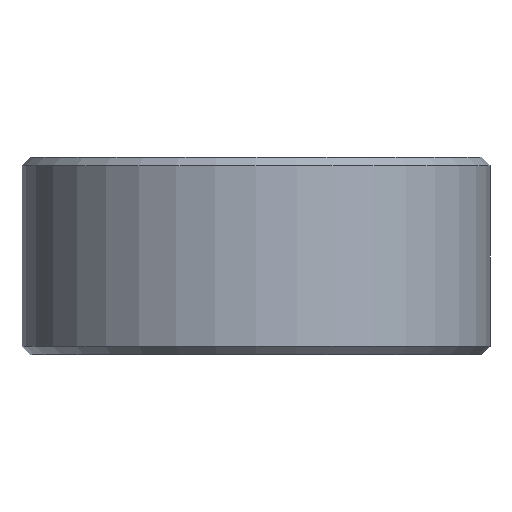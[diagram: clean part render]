
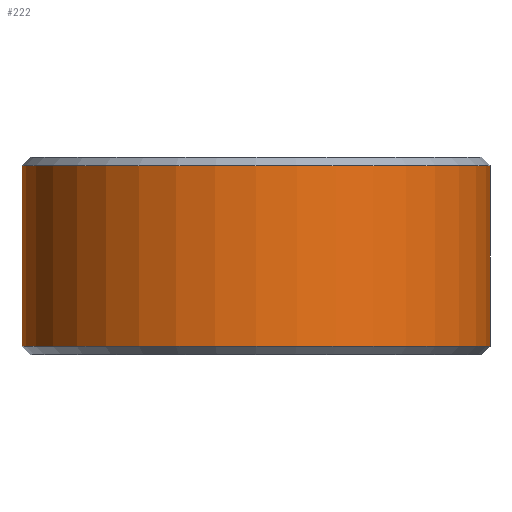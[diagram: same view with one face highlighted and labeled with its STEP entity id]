
A CAD part, front view. The second image highlights one B-rep face of the part: STEP entity #222.
In plain terms, the highlighted cylindrical face has radius 17.775 mm (diameter 35.55 mm), a partial arc.
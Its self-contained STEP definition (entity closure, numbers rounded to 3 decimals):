
#8 = FACE_OUTER_BOUND ( 'NONE', #53, .T. ) ;
#10 = CYLINDRICAL_SURFACE ( 'NONE', #121, 17.775 ) ;
#21 = VERTEX_POINT ( 'NONE', #126 ) ;
#49 = LINE ( 'NONE', #150, #337 ) ;
#53 = EDGE_LOOP ( 'NONE', ( #209, #162, #238, #85 ) ) ;
#68 = CARTESIAN_POINT ( 'NONE',  ( -17.775, 0., 15. ) ) ;
#70 = DIRECTION ( 'NONE',  ( 1., 0., 0. ) ) ;
#85 = ORIENTED_EDGE ( 'NONE', *, *, #304, .T. ) ;
#87 = VECTOR ( 'NONE', #374, 1000. ) ;
#88 = VERTEX_POINT ( 'NONE', #251 ) ;
#109 = EDGE_CURVE ( 'NONE', #184, #88, #395, .T. ) ;
#110 = CARTESIAN_POINT ( 'NONE',  ( 0., 0., 0.635 ) ) ;
#111 = VERTEX_POINT ( 'NONE', #372 ) ;
#121 = AXIS2_PLACEMENT_3D ( 'NONE', #136, #137, #202 ) ;
#126 = CARTESIAN_POINT ( 'NONE',  ( 17.775, 0., 0.635 ) ) ;
#132 = EDGE_CURVE ( 'NONE', #88, #111, #133, .T. ) ;
#133 = LINE ( 'NONE', #68, #87 ) ;
#136 = CARTESIAN_POINT ( 'NONE',  ( 0., 0., 15. ) ) ;
#137 = DIRECTION ( 'NONE',  ( 0., 0., -1. ) ) ;
#150 = CARTESIAN_POINT ( 'NONE',  ( 17.775, 0., 15. ) ) ;
#162 = ORIENTED_EDGE ( 'NONE', *, *, #109, .T. ) ;
#184 = VERTEX_POINT ( 'NONE', #223 ) ;
#202 = DIRECTION ( 'NONE',  ( -1., 0., 0. ) ) ;
#209 = ORIENTED_EDGE ( 'NONE', *, *, #294, .F. ) ;
#222 = ADVANCED_FACE ( 'NONE', ( #8 ), #10, .T. ) ;
#223 = CARTESIAN_POINT ( 'NONE',  ( 17.775, 0., 14.365 ) ) ;
#238 = ORIENTED_EDGE ( 'NONE', *, *, #132, .T. ) ;
#251 = CARTESIAN_POINT ( 'NONE',  ( -17.775, 0., 14.365 ) ) ;
#253 = AXIS2_PLACEMENT_3D ( 'NONE', #366, #318, #70 ) ;
#282 = CIRCLE ( 'NONE', #323, 17.775 ) ;
#294 = EDGE_CURVE ( 'NONE', #184, #21, #49, .T. ) ;
#295 = DIRECTION ( 'NONE',  ( 0., 0., 1. ) ) ;
#304 = EDGE_CURVE ( 'NONE', #111, #21, #282, .T. ) ;
#318 = DIRECTION ( 'NONE',  ( 0., 0., -1. ) ) ;
#323 = AXIS2_PLACEMENT_3D ( 'NONE', #110, #295, #324 ) ;
#324 = DIRECTION ( 'NONE',  ( 1., 0., 0. ) ) ;
#337 = VECTOR ( 'NONE', #389, 1000. ) ;
#366 = CARTESIAN_POINT ( 'NONE',  ( 0., 0., 14.365 ) ) ;
#372 = CARTESIAN_POINT ( 'NONE',  ( -17.775, 0., 0.635 ) ) ;
#374 = DIRECTION ( 'NONE',  ( 0., 0., -1. ) ) ;
#389 = DIRECTION ( 'NONE',  ( 0., 0., -1. ) ) ;
#395 = CIRCLE ( 'NONE', #253, 17.775 ) ;
